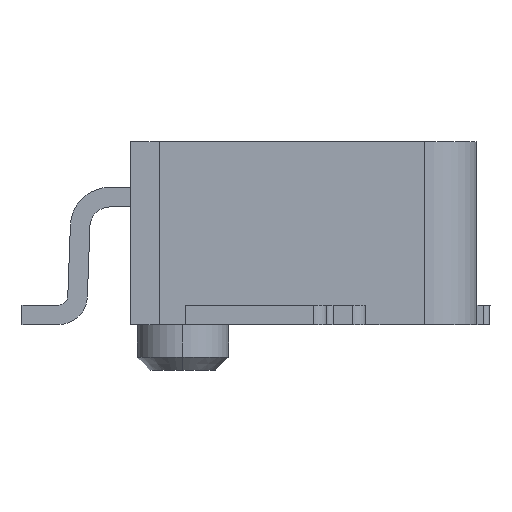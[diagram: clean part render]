
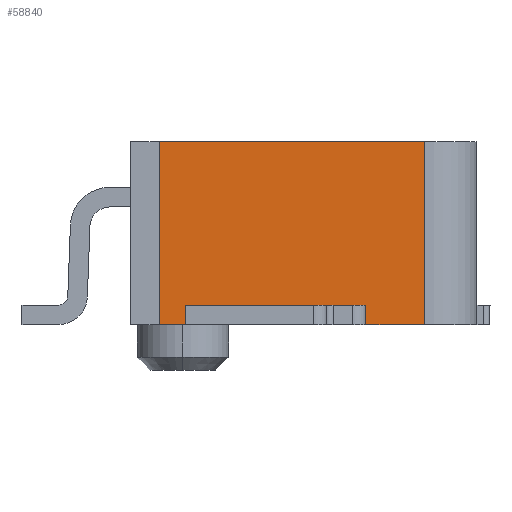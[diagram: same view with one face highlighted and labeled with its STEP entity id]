
A CAD part, left-side view. The second image highlights one B-rep face of the part: STEP entity #58840.
In plain terms, the highlighted planar face has unit normal (-1, 0, 0) as drawn and (1, 0, 0) by its records, which use the part's own axes.
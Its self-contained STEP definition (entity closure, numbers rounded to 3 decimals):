
#52900=CARTESIAN_POINT('',(248.919,-48.486,1.4));
#52910=VERTEX_POINT('',#52900);
#52940=CARTESIAN_POINT('',(248.919,-50.516,1.4));
#52950=DIRECTION('',(0.,1.,0.));
#52960=VECTOR('',#52950,1.);
#52970=LINE('',#52940,#52960);
#52980=CARTESIAN_POINT('',(248.919,-50.516,1.4));
#52990=VERTEX_POINT('',#52980);
#53000=EDGE_CURVE('',#52990,#52910,#52970,.T.);
#58090=CARTESIAN_POINT('',(248.919,-48.486,1.4));
#58100=DIRECTION('',(0.,0.,-1.));
#58110=VECTOR('',#58100,1.);
#58120=LINE('',#58090,#58110);
#58130=CARTESIAN_POINT('',(248.919,-48.486,
0.));
#58140=VERTEX_POINT('',#58130);
#58150=EDGE_CURVE('',#52910,#58140,#58120,.T.);
#58290=CARTESIAN_POINT('',(248.919,-48.483,1.403));
#58300=DIRECTION('',(1.,0.,0.));
#58310=DIRECTION('',(0.,-1.,0.));
#58320=AXIS2_PLACEMENT_3D('',#58290,#58300,#58310);
#58330=PLANE('',#58320);
#58340=CARTESIAN_POINT('',(248.919,-50.516,0.));
#58350=DIRECTION('',(0.,0.,1.));
#58360=VECTOR('',#58350,1.);
#58370=LINE('',#58340,#58360);
#58380=CARTESIAN_POINT('',(248.919,-50.516,
0.));
#58390=VERTEX_POINT('',#58380);
#58400=EDGE_CURVE('',#58390,#52990,#58370,.T.);
#58410=ORIENTED_EDGE('',*,*,#58400,.F.);
#58420=ORIENTED_EDGE('',*,*,#53000,.F.);
#58430=ORIENTED_EDGE('',*,*,#58150,.F.);
#58440=CARTESIAN_POINT('',(248.919,-48.486,0.));
#58450=DIRECTION('',(0.,-1.,0.));
#58460=VECTOR('',#58450,1.);
#58470=LINE('',#58440,#58460);
#58480=CARTESIAN_POINT('',(248.919,-48.936,
0.));
#58490=VERTEX_POINT('',#58480);
#58500=EDGE_CURVE('',#58140,#58490,#58470,.T.);
#58510=ORIENTED_EDGE('',*,*,#58500,.F.);
#58520=CARTESIAN_POINT('',(248.919,-48.936,0.15));
#58530=DIRECTION('',(0.,0.,-1.));
#58540=VECTOR('',#58530,1.);
#58550=LINE('',#58520,#58540);
#58560=CARTESIAN_POINT('',(248.919,-48.936,0.15));
#58570=VERTEX_POINT('',#58560);
#58580=EDGE_CURVE('',#58570,#58490,#58550,.T.);
#58590=ORIENTED_EDGE('',*,*,#58580,.T.);
#58600=CARTESIAN_POINT('',(248.919,-50.316,0.15));
#58610=DIRECTION('',(0.,1.,0.));
#58620=VECTOR('',#58610,1.);
#58630=LINE('',#58600,#58620);
#58640=CARTESIAN_POINT('',(248.919,-50.316,0.15));
#58650=VERTEX_POINT('',#58640);
#58660=EDGE_CURVE('',#58650,#58570,#58630,.T.);
#58670=ORIENTED_EDGE('',*,*,#58660,.T.);
#58680=CARTESIAN_POINT('',(248.919,-50.316,0.));
#58690=DIRECTION('',(0.,0.,1.));
#58700=VECTOR('',#58690,1.);
#58710=LINE('',#58680,#58700);
#58720=CARTESIAN_POINT('',(248.919,-50.316,
0.));
#58730=VERTEX_POINT('',#58720);
#58740=EDGE_CURVE('',#58730,#58650,#58710,.T.);
#58750=ORIENTED_EDGE('',*,*,#58740,.T.);
#58760=CARTESIAN_POINT('',(248.919,-50.316,0.));
#58770=DIRECTION('',(0.,-1.,0.));
#58780=VECTOR('',#58770,1.);
#58790=LINE('',#58760,#58780);
#58800=EDGE_CURVE('',#58730,#58390,#58790,.T.);
#58810=ORIENTED_EDGE('',*,*,#58800,.F.);
#58820=EDGE_LOOP('',(#58810,#58750,#58670,#58590,#58510,#58430,#58420,
#58410));
#58830=FACE_OUTER_BOUND('',#58820,.T.);
#58840=ADVANCED_FACE('',(#58830),#58330,.T.);
